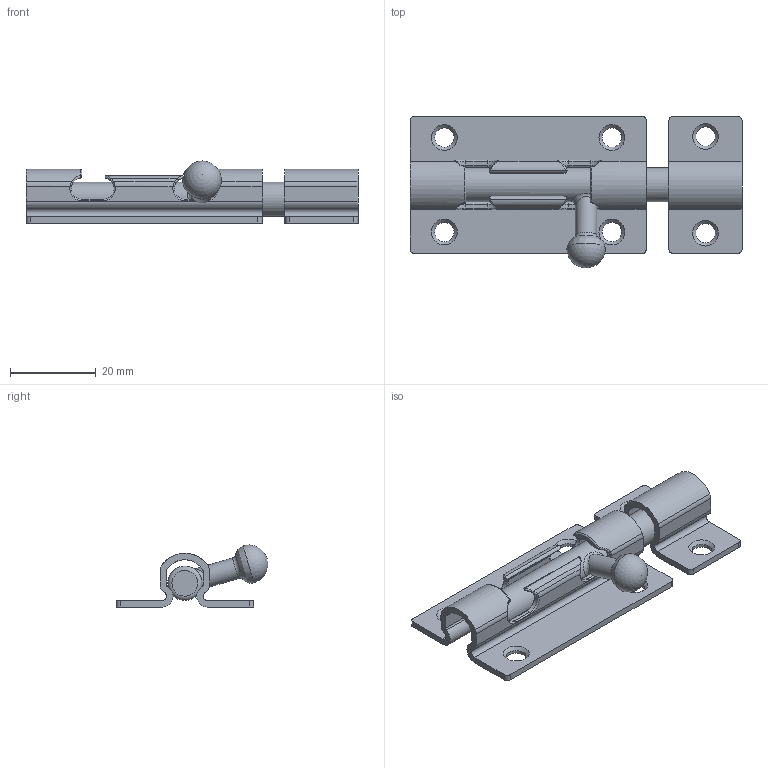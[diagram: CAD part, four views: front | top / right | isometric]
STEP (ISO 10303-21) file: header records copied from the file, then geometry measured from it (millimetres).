
FILE_DESCRIPTION(/* description */ (''),/* implementation_level */ '2;1');
FILE_NAME(/* name */ '\\NAS\db20\ODS1-3\DR_ODS1-3.stp',/* time_stamp */ '2017-09-01T16:36:59+09:00',/* author */ ('user'),/* organization */ (''),/* preprocessor_version */ 'ST-DEVELOPER v15.6',/* originating_system */ 'Autodesk Inventor 2015',/* authorisation */ '');
FILE_SCHEMA (('AUTOMOTIVE_DESIGN { 1 0 10303 214 3 1 1 }'));
Length unit declared in the file: millimetre
Products named in the file (4): DR_ODS1-3; DR_ODS1-3-BR; DR_ODS1-3-C
Bounding box: 77.29 x 35.35 x 14.44 mm (x, y, z)
Volume: 8781.2 mm3; surface area: 9492.9 mm2
Topology: 3 solids, 3 shells, 196 faces, 497 edges, 304 vertices
Faces by surface type: cylinder 84, bspline 42, plane 32, torus 23, sphere 9, cone 6
Full cylindrical faces by diameter (mm): 4.5 x6, 5 x1, 8 x1
Entity records: 7328 total; most frequent: CARTESIAN_POINT 2790, ORIENTED_EDGE 934, DIRECTION 914, EDGE_CURVE 467, AXIS2_PLACEMENT_3D 381, VERTEX_POINT 293, EDGE_LOOP 226, CIRCLE 220
